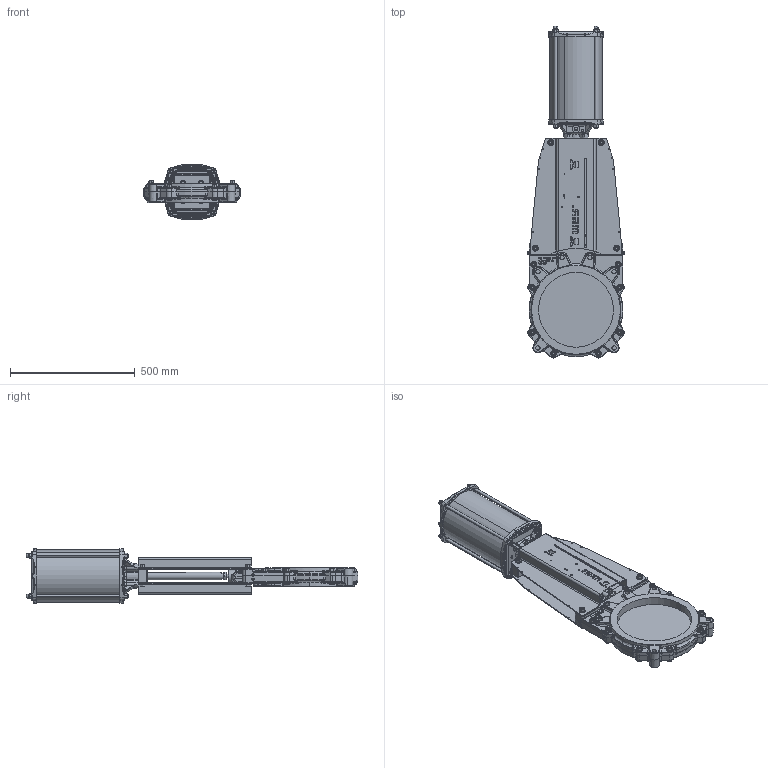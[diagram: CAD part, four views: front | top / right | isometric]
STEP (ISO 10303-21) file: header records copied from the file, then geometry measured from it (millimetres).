
FILE_DESCRIPTION (( 'STEP AP214' ), '1' );
FILE_NAME ('VSC DN 0300.STEP', '2015-09-23T11:12:18', ( 'admin' ), ( 'Hewlett-Packard Company' ), 'SwSTEP 2.0', 'SolidWorks 2013', '' );
FILE_SCHEMA (( 'AUTOMOTIVE_DESIGN' ));
Length unit declared in the file: millimetre
Products named in the file (1): VSC DN 0300
Bounding box: 392 x 1330 x 220 mm (x, y, z)
Volume: 11869994.5 mm3; surface area: 2247347.7 mm2
Topology: 83 solids, 87 shells, 4208 faces, 10034 edges, 5886 vertices
Faces by surface type: plane 1275, cylinder 1088, bspline 782, cone 773, torus 207, sphere 83
Entity records: 196886 total; most frequent: CARTESIAN_POINT 59509, ORIENTED_EDGE 19612, DIRECTION 17696, EDGE_CURVE 9806, AXIS2_PLACEMENT_3D 7056, VERTEX_POINT 5878, EDGE_LOOP 4582, UNCERTAINTY_MEASURE_WITH_UNIT 4293
